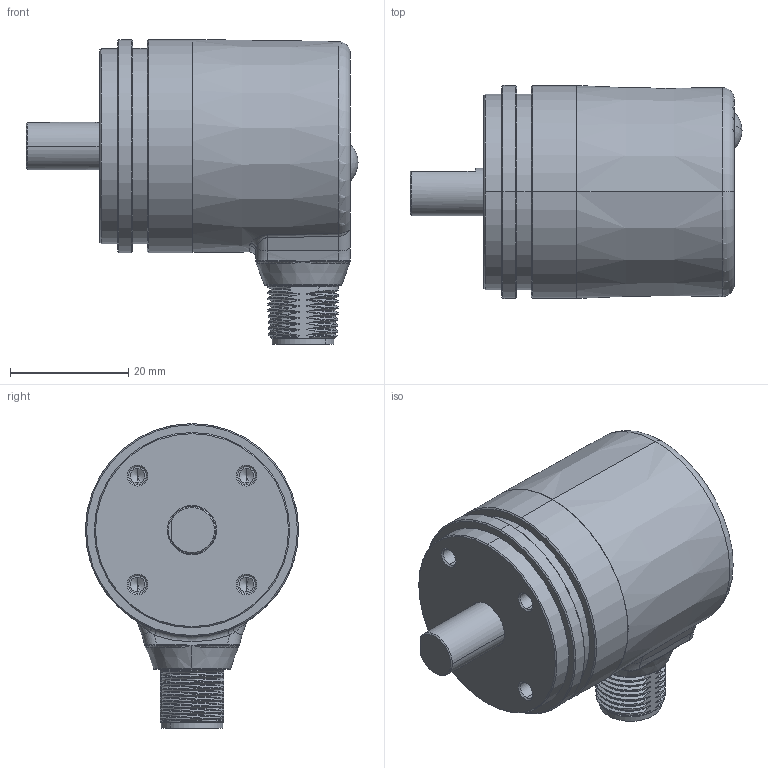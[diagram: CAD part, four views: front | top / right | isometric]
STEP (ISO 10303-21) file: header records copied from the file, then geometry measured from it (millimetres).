
FILE_DESCRIPTION (( 'STEP AP214' ), '1' );
FILE_NAME ('3651.26X4.XXXX.STEP', '2008-09-17T05:19:23', ( 'admin' ), ( 'Fritz Kübler GmbH' ), 'SwSTEP 2.0', 'SolidWorks 2008', '' );
FILE_SCHEMA (( 'AUTOMOTIVE_DESIGN' ));
Length unit declared in the file: millimetre
Products named in the file (1): 3651.26X4.XXXX
Bounding box: 56.09 x 36 x 51.5 mm (x, y, z)
Volume: 21667.5 mm3; surface area: 18805.2 mm2
Topology: 6 solids, 6 shells, 728 faces, 1703 edges, 1035 vertices
Faces by surface type: cylinder 194, cone 163, plane 149, bspline 130, torus 86, sphere 6
Entity records: 47865 total; most frequent: CARTESIAN_POINT 24106, ORIENTED_EDGE 3358, DIRECTION 3150, EDGE_CURVE 1679, AXIS2_PLACEMENT_3D 1314, VERTEX_POINT 1035, EDGE_LOOP 806, UNCERTAINTY_MEASURE_WITH_UNIT 735
